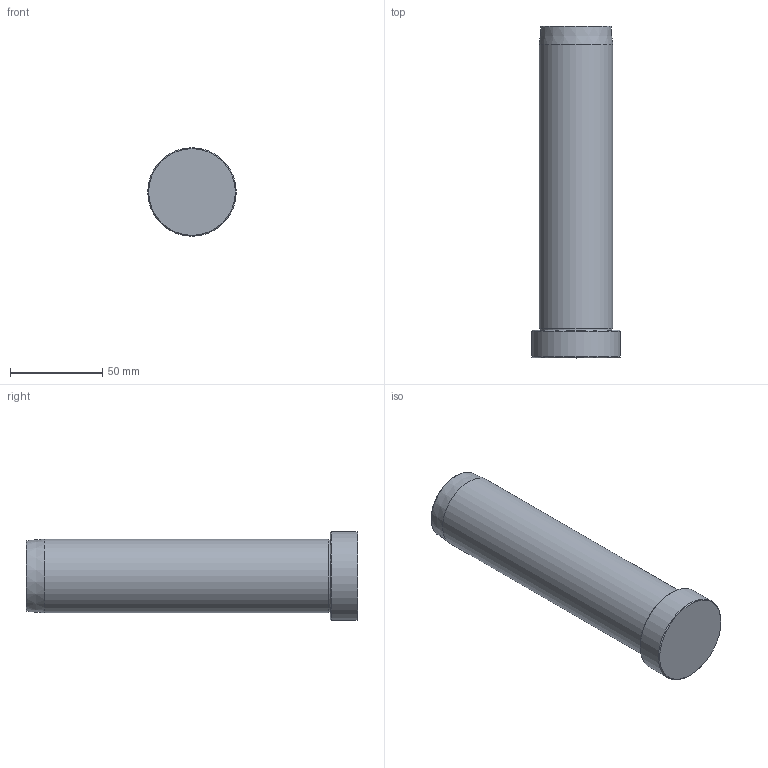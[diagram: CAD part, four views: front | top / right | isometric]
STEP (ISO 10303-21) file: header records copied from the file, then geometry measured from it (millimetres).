
FILE_DESCRIPTION( ( 'STEP AP203' ), '1' );
FILE_NAME( 'D:/Cuma/24 03 2009/D01D/D01D_40X180.step', '2002-12-31T22:18:12', ( ' ' ), ( ' ' ), 'XStep 1.0', ' ', ' ' );
FILE_SCHEMA( ( 'CONFIG_CONTROL_DESIGN' ) );
Length unit declared in the file: metre
Products named in the file (1): 1
Bounding box: 48 x 180 x 48 mm (x, y, z)
Volume: 233872.9 mm3; surface area: 26436.1 mm2
Topology: 1 solids, 1 shells, 11 faces, 17 edges, 10 vertices
Faces by surface type: plane 4, cone 3, cylinder 3, torus 1
Full cylindrical faces by diameter (mm): 39.5 x1, 40 x1, 48 x1
Entity records: 259 total; most frequent: DIRECTION 44, CARTESIAN_POINT 32, AXIS2_PLACEMENT_3D 22, EDGE_LOOP 20, ORIENTED_EDGE 20, FACE_OUTER_BOUND 15, ADVANCED_FACE 11, EDGE_CURVE 10
